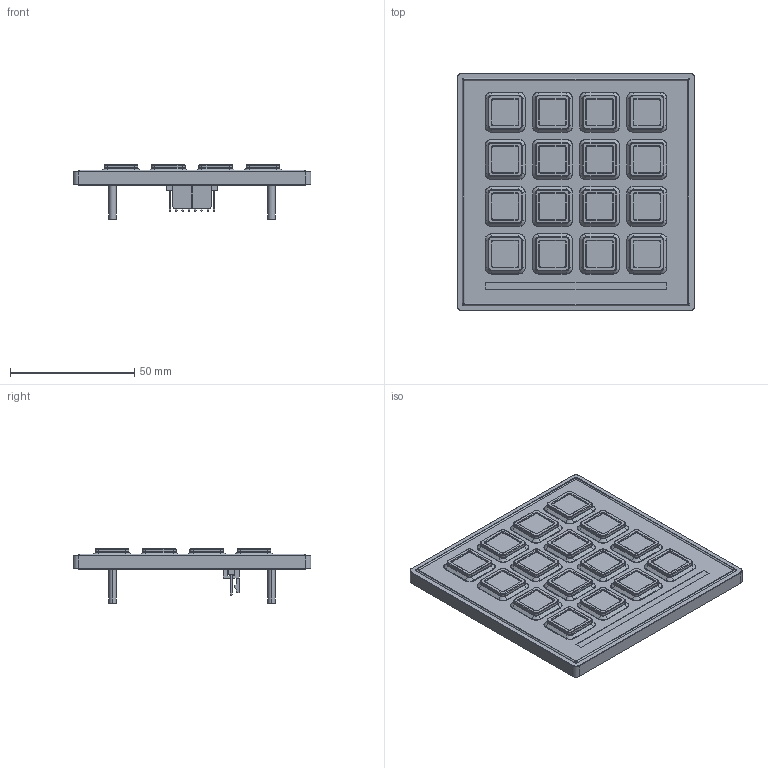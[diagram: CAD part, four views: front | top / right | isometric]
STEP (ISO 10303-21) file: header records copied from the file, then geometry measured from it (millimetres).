
FILE_DESCRIPTION (( 'STEP AP214' ), '1' );
FILE_NAME ('070-16-ASSY~1.STEP', '2018-03-05T15:49:49', ( '' ), ( '' ), 'SwSTEP 2.0', 'SolidWorks 2017', '' );
FILE_SCHEMA (( 'AUTOMOTIVE_DESIGN' ));
Length unit declared in the file: millimetre
Products named in the file (1): 070-16-ASSY~1
Bounding box: 95.63 x 95.62 x 21.8 mm (x, y, z)
Surface area: 26567.9 mm2 (no closed solid volume)
Topology: 0 solids, 27 shells, 1139 faces, 2818 edges, 1712 vertices
Faces by surface type: cylinder 410, plane 381, torus 280, cone 68
Entity records: 45810 total; most frequent: DIRECTION 6300, CARTESIAN_POINT 5874, ORIENTED_EDGE 5158, EDGE_CURVE 2818, AXIS2_PLACEMENT_3D 2410, VERTEX_POINT 1712, LINE 1480, VECTOR 1480
